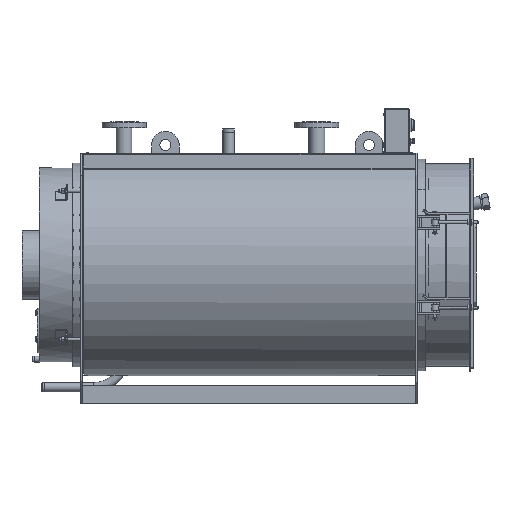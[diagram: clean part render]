
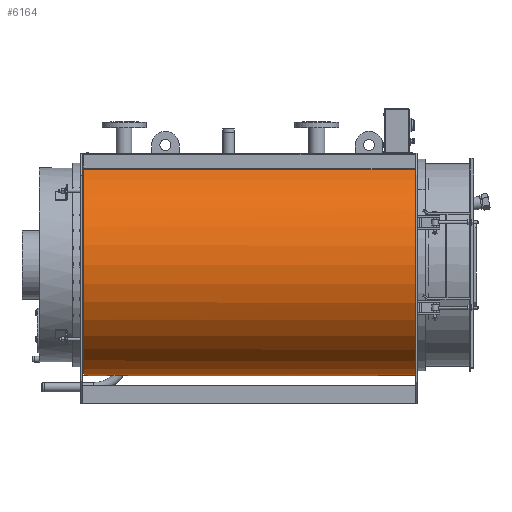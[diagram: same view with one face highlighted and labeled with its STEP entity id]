
A CAD part, front view. The second image highlights one B-rep face of the part: STEP entity #6164.
In plain terms, the highlighted cylindrical face has radius 401.7 mm (diameter 803.4 mm), a partial arc.
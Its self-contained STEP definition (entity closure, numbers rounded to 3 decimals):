
#6164=ADVANCED_FACE('',(#41445),#41447,.T.);
#41445=FACE_BOUND('',#41446,.T.);
#41446=EDGE_LOOP('',(#77886,#77887,#77888,#77889,#77890,#77891,#77892,#77893,#77894));
#41447=CYLINDRICAL_SURFACE('',#41448,401.7);
#41448=AXIS2_PLACEMENT_3D('',#41449,#41450,#41451);
#41449=CARTESIAN_POINT('',(-1213.,0.,0.));
#41450=DIRECTION('',(1.,0.,0.));
#41451=DIRECTION('',(0.,0.037,0.999));
#77886=ORIENTED_EDGE('',*,*,#90188,.F.);
#77887=ORIENTED_EDGE('',*,*,#90200,.T.);
#77888=ORIENTED_EDGE('',*,*,#90600,.T.);
#77889=ORIENTED_EDGE('',*,*,#90601,.T.);
#77890=ORIENTED_EDGE('',*,*,#90602,.T.);
#77891=ORIENTED_EDGE('',*,*,#90603,.T.);
#77892=ORIENTED_EDGE('',*,*,#90604,.T.);
#77893=ORIENTED_EDGE('',*,*,#90605,.F.);
#77894=ORIENTED_EDGE('',*,*,#90201,.T.);
#90188=EDGE_CURVE('',#98271,#98272,#98273,.T.);
#90200=EDGE_CURVE('',#98271,#98291,#98293,.T.);
#90201=EDGE_CURVE('',#98294,#98272,#98295,.T.);
#90600=EDGE_CURVE('',#98291,#98955,#98956,.F.);
#90601=EDGE_CURVE('',#98955,#98957,#98958,.F.);
#90602=EDGE_CURVE('',#98957,#98959,#98960,.F.);
#90603=EDGE_CURVE('',#98959,#98961,#98962,.F.);
#90604=EDGE_CURVE('',#98961,#98963,#98964,.F.);
#90605=EDGE_CURVE('',#98294,#98963,#98965,.T.);
#98271=VERTEX_POINT('',#116961);
#98272=VERTEX_POINT('',#116962);
#98273=LINE('',#116963,#116964);
#98291=VERTEX_POINT('',#117041);
#98293=CIRCLE('',#117045,401.7);
#98294=VERTEX_POINT('',#117049);
#98295=CIRCLE('',#117050,401.7);
#98955=VERTEX_POINT('',#121708);
#98956=LINE('',#121709,#121710);
#98957=VERTEX_POINT('',#121712);
#98958=B_SPLINE_CURVE_WITH_KNOTS('',3,
(#121713,#121714,#121715,#121716,#121717,#121718,#121719,#121720,#121721,#121722,
#121723,#121724,#121725,#121726),
.UNSPECIFIED.,.F.,.F.,
(4,1,1,1,1,1,1,1,1,1,1,4),
(0.,0.109,0.204,0.29,0.377,0.467,
0.555,0.644,0.733,0.821,0.91,
1.),
.UNSPECIFIED.);
#98959=VERTEX_POINT('',#121727);
#98960=B_SPLINE_CURVE_WITH_KNOTS('',3,
(#121728,#121729,#121730,#121731,#121732,#121733,#121734,#121735,#121736,#121737,
#121738,#121739,#121740,#121741),
.UNSPECIFIED.,.F.,.F.,
(4,1,1,1,1,1,1,1,1,1,1,4),
(0.,0.109,0.204,0.289,0.377,0.467,
0.555,0.645,0.734,0.821,0.91,
1.),
.UNSPECIFIED.);
#98961=VERTEX_POINT('',#121742);
#98962=LINE('',#121743,#121744);
#98963=VERTEX_POINT('',#121746);
#98964=B_SPLINE_CURVE_WITH_KNOTS('',3,
(#121747,#121748,#121749,#121750,#121751,#121752,#121753,#121754,#121755,#121756,
#121757,#121758,#121759,#121760,#121761,#121762,#121763),
.UNSPECIFIED.,.F.,.F.,
(4,1,1,1,1,1,1,1,1,1,1,1,1,1,4),
(0.,0.087,0.163,0.23,0.3,0.372,
0.442,0.513,0.584,0.655,0.726,
0.798,0.867,0.935,1.),
.UNSPECIFIED.);
#98965=LINE('',#121764,#121765);
#116961=CARTESIAN_POINT('',(-1213.,-200.,348.372));
#116962=CARTESIAN_POINT('',(-9.,-200.,348.372));
#116963=CARTESIAN_POINT('',(-1213.,-200.,348.372));
#116964=VECTOR('',#116965,1.);
#116965=DIRECTION('',(1.,0.,0.));
#117041=CARTESIAN_POINT('',(-1213.,-2.002,-401.695));
#117045=AXIS2_PLACEMENT_3D('',#117046,#117047,#117048);
#117046=CARTESIAN_POINT('',(-1213.,0.,0.));
#117047=DIRECTION('',(1.,0.,0.));
#117048=DIRECTION('',(0.,-0.498,0.867));
#117049=CARTESIAN_POINT('',(-9.,0.,-401.7));
#117050=AXIS2_PLACEMENT_3D('',#117051,#117052,#117053);
#117051=CARTESIAN_POINT('',(-9.,0.,0.));
#117052=DIRECTION('',(-1.,0.,0.));
#117053=DIRECTION('',(0.,0.,-1.));
#121708=CARTESIAN_POINT('',(-1137.583,-2.002,-401.695));
#121709=CARTESIAN_POINT('',(-1137.583,-2.002,-401.695));
#121710=VECTOR('',#121711,1.);
#121711=DIRECTION('',(-1.,0.,0.));
#121712=CARTESIAN_POINT('',(-1126.055,-9.674,-401.583));
#121713=CARTESIAN_POINT('',(-1126.055,-9.674,-401.583));
#121714=CARTESIAN_POINT('',(-1126.262,-9.181,-401.595));
#121715=CARTESIAN_POINT('',(-1126.708,-8.283,-401.615));
#121716=CARTESIAN_POINT('',(-1127.487,-7.097,-401.638));
#121717=CARTESIAN_POINT('',(-1128.318,-6.083,-401.654));
#121718=CARTESIAN_POINT('',(-1129.228,-5.177,-401.667));
#121719=CARTESIAN_POINT('',(-1130.241,-4.359,-401.677));
#121720=CARTESIAN_POINT('',(-1131.341,-3.647,-401.684));
#121721=CARTESIAN_POINT('',(-1132.506,-3.055,-401.688));
#121722=CARTESIAN_POINT('',(-1133.72,-2.591,-401.692));
#121723=CARTESIAN_POINT('',(-1134.976,-2.254,-401.694));
#121724=CARTESIAN_POINT('',(-1136.265,-2.048,-401.695));
#121725=CARTESIAN_POINT('',(-1137.142,-2.002,-401.695));
#121726=CARTESIAN_POINT('',(-1137.583,-2.002,-401.695));
#121727=CARTESIAN_POINT('',(-1103.,-25.006,-400.921));
#121728=CARTESIAN_POINT('',(-1103.,-25.006,-400.921));
#121729=CARTESIAN_POINT('',(-1104.068,-25.006,-400.921));
#121730=CARTESIAN_POINT('',(-1106.067,-24.877,-400.929));
#121731=CARTESIAN_POINT('',(-1108.855,-24.359,-400.961));
#121732=CARTESIAN_POINT('',(-1111.366,-23.611,-401.006));
#121733=CARTESIAN_POINT('',(-1113.741,-22.633,-401.062));
#121734=CARTESIAN_POINT('',(-1116.034,-21.396,-401.131));
#121735=CARTESIAN_POINT('',(-1118.199,-19.916,-401.207));
#121736=CARTESIAN_POINT('',(-1120.193,-18.222,-401.288));
#121737=CARTESIAN_POINT('',(-1121.991,-16.337,-401.369));
#121738=CARTESIAN_POINT('',(-1123.582,-14.278,-401.448));
#121739=CARTESIAN_POINT('',(-1124.955,-12.062,-401.521));
#121740=CARTESIAN_POINT('',(-1125.716,-10.485,-401.564));
#121741=CARTESIAN_POINT('',(-1126.055,-9.674,-401.583));
#121742=CARTESIAN_POINT('',(-1078.,-25.006,-400.921));
#121743=CARTESIAN_POINT('',(-1078.,-25.006,-400.921));
#121744=VECTOR('',#121745,1.);
#121745=DIRECTION('',(-1.,0.,0.));
#121746=CARTESIAN_POINT('',(-1053.,0.,-401.7));
#121747=CARTESIAN_POINT('',(-1053.,0.,-401.7));
#121748=CARTESIAN_POINT('',(-1053.,-1.138,-401.7));
#121749=CARTESIAN_POINT('',(-1053.146,-3.27,-401.691));
#121750=CARTESIAN_POINT('',(-1053.734,-6.235,-401.655));
#121751=CARTESIAN_POINT('',(-1054.582,-8.897,-401.604));
#121752=CARTESIAN_POINT('',(-1055.69,-11.402,-401.541));
#121753=CARTESIAN_POINT('',(-1057.088,-13.804,-401.465));
#121754=CARTESIAN_POINT('',(-1058.758,-16.051,-401.381));
#121755=CARTESIAN_POINT('',(-1060.66,-18.091,-401.294));
#121756=CARTESIAN_POINT('',(-1062.781,-19.909,-401.208));
#121757=CARTESIAN_POINT('',(-1065.091,-21.478,-401.126));
#121758=CARTESIAN_POINT('',(-1067.564,-22.782,-401.054));
#121759=CARTESIAN_POINT('',(-1070.15,-23.796,-400.995));
#121760=CARTESIAN_POINT('',(-1072.789,-24.507,-400.952));
#121761=CARTESIAN_POINT('',(-1075.41,-24.917,-400.927));
#121762=CARTESIAN_POINT('',(-1077.147,-25.006,-400.921));
#121763=CARTESIAN_POINT('',(-1078.,-25.006,-400.921));
#121764=CARTESIAN_POINT('',(-9.,0.,-401.7));
#121765=VECTOR('',#121766,1.);
#121766=DIRECTION('',(-1.,0.,0.));
